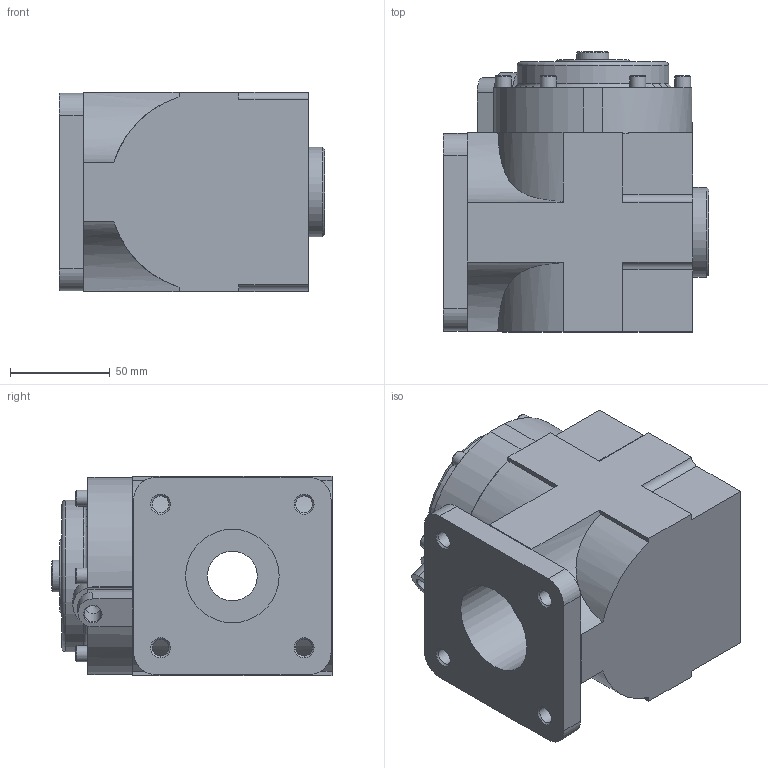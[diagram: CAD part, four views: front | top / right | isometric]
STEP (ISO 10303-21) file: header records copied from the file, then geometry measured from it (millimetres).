
FILE_DESCRIPTION( ( 'STEP AP214' ), ' ' );
FILE_NAME( 'p:/temp/worker_51/3316_1960/app_74_02016022515323651341391192d056f_000000_00_00_000000/format_1/L1-N08025.stp', '2016-02-25T14:32:39', ( '' ), ( '' ), ' ', 'PARTsolutions', ' ' );
FILE_SCHEMA( ( 'AUTOMOTIVE_DESIGN { 1 0 10303 214 1 1 1 1 }' ) );
Length unit declared in the file: millimetre
Products named in the file (1): _L1-N08025
Bounding box: 133 x 140.5 x 100 mm (x, y, z)
Volume: 1260555.4 mm3; surface area: 100662.2 mm2
Topology: 1 solids, 1 shells, 178 faces, 446 edges, 287 vertices
Faces by surface type: plane 106, cylinder 43, cone 20, torus 9
Full cylindrical faces by diameter (mm): 1.5 x1, 8 x6, 8.376 x8, 8.566 x1, 16 x1, 25 x1, 45 x1, 46.9 x1, 76 x1
Entity records: 6536 total; most frequent: CARTESIAN_POINT 1009, DIRECTION 850, ORIENTED_EDGE 764, EDGE_CURVE 382, AXIS2_PLACEMENT_3D 299, VERTEX_POINT 278, EDGE_LOOP 255, LINE 252
